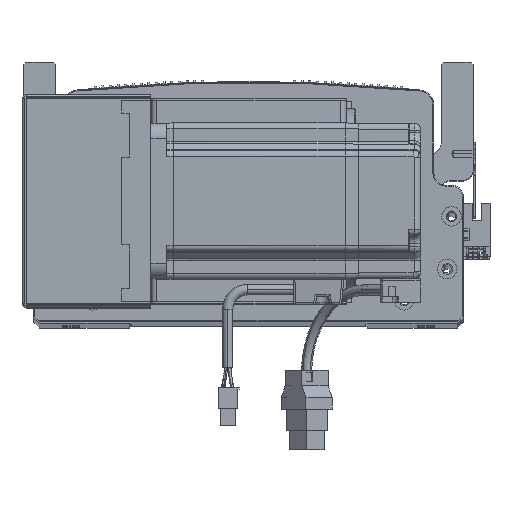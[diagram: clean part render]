
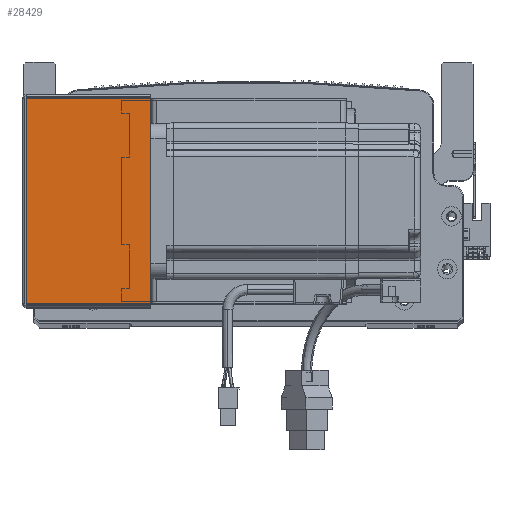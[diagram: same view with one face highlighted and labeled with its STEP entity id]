
A CAD part, top view. The second image highlights one B-rep face of the part: STEP entity #28429.
In plain terms, the highlighted planar face has unit normal (0, 0, 1) as drawn and (0, 0, -1) by its records, which use the part's own axes.
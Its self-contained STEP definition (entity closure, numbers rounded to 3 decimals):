
#719 = FACE_OUTER_BOUND ( 'NONE', #68983, .T. ) ;
#850 = LINE ( 'NONE', #79184, #29021 ) ;
#6452 = DIRECTION ( 'NONE',  ( 0., -1., 0. ) ) ;
#7076 = VERTEX_POINT ( 'NONE', #59011 ) ;
#9350 = ORIENTED_EDGE ( 'NONE', *, *, #22600, .T. ) ;
#10777 = VECTOR ( 'NONE', #6452, 1000. ) ;
#10844 = ORIENTED_EDGE ( 'NONE', *, *, #68105, .T. ) ;
#14507 = VECTOR ( 'NONE', #51388, 1000. ) ;
#22600 = EDGE_CURVE ( 'NONE', #80484, #76410, #37594, .T. ) ;
#23980 = LINE ( 'NONE', #27792, #34551 ) ;
#26533 = EDGE_CURVE ( 'NONE', #7076, #28709, #850, .T. ) ;
#27792 = CARTESIAN_POINT ( 'NONE',  ( 64.5, 0., -205.5 ) ) ;
#28429 = ADVANCED_FACE ( 'NONE', ( #719 ), #35153, .F. ) ;
#28709 = VERTEX_POINT ( 'NONE', #38054 ) ;
#29021 = VECTOR ( 'NONE', #65552, 1000. ) ;
#30694 = ORIENTED_EDGE ( 'NONE', *, *, #26533, .F. ) ;
#34058 = CARTESIAN_POINT ( 'NONE',  ( 0.737, 0., -205.5 ) ) ;
#34551 = VECTOR ( 'NONE', #81614, 1000. ) ;
#35153 = PLANE ( 'NONE',  #80111 ) ;
#37594 = LINE ( 'NONE', #85850, #14507 ) ;
#38054 = CARTESIAN_POINT ( 'NONE',  ( 64.5, 0.707, -205.5 ) ) ;
#42058 = EDGE_CURVE ( 'NONE', #80484, #7076, #83293, .T. ) ;
#48303 = CARTESIAN_POINT ( 'NONE',  ( 64.5, 105.293, -205.5 ) ) ;
#48642 = DIRECTION ( 'NONE',  ( 0., 0., 1. ) ) ;
#51388 = DIRECTION ( 'NONE',  ( 1., 0., 0. ) ) ;
#54781 = CARTESIAN_POINT ( 'NONE',  ( 0., 0., -205.5 ) ) ;
#59011 = CARTESIAN_POINT ( 'NONE',  ( 0.737, 0.707, -205.5 ) ) ;
#65552 = DIRECTION ( 'NONE',  ( 1., 0., 0. ) ) ;
#68105 = EDGE_CURVE ( 'NONE', #76410, #28709, #23980, .T. ) ;
#68983 = EDGE_LOOP ( 'NONE', ( #80661, #9350, #10844, #30694 ) ) ;
#76410 = VERTEX_POINT ( 'NONE', #48303 ) ;
#77643 = CARTESIAN_POINT ( 'NONE',  ( 0.737, 105.293, -205.5 ) ) ;
#79184 = CARTESIAN_POINT ( 'NONE',  ( 0., 0.707, -205.5 ) ) ;
#80111 = AXIS2_PLACEMENT_3D ( 'NONE', #54781, #48642, #81939 ) ;
#80484 = VERTEX_POINT ( 'NONE', #77643 ) ;
#80661 = ORIENTED_EDGE ( 'NONE', *, *, #42058, .F. ) ;
#81614 = DIRECTION ( 'NONE',  ( 0., -1., 0. ) ) ;
#81939 = DIRECTION ( 'NONE',  ( 1., 0., 0. ) ) ;
#83293 = LINE ( 'NONE', #34058, #10777 ) ;
#85850 = CARTESIAN_POINT ( 'NONE',  ( 0., 105.293, -205.5 ) ) ;
